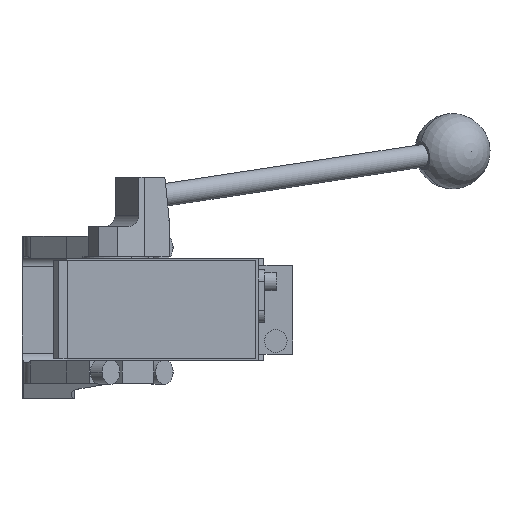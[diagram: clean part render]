
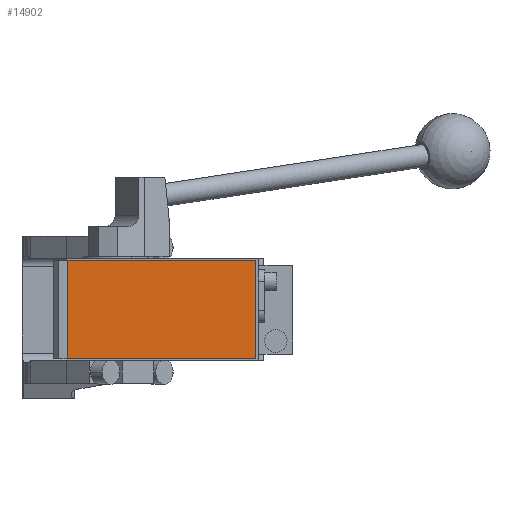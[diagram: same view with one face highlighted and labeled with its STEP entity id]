
A CAD part, front view. The second image highlights one B-rep face of the part: STEP entity #14902.
In plain terms, the highlighted planar face has unit normal (0, -1, 0).
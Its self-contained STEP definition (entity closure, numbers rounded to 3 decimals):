
#49 = VECTOR ( 'NONE', #9610, 1000. ) ;
#157 = DIRECTION ( 'NONE',  ( 0., 0., -1. ) ) ;
#203 = LINE ( 'NONE', #8208, #6854 ) ;
#317 = CARTESIAN_POINT ( 'NONE',  ( -19., -286.5, 26. ) ) ;
#842 = VERTEX_POINT ( 'NONE', #4738 ) ;
#1305 = CARTESIAN_POINT ( 'NONE',  ( 0., -286.5, 0. ) ) ;
#1315 = CARTESIAN_POINT ( 'NONE',  ( 81., -286.5, -26. ) ) ;
#3271 = DIRECTION ( 'NONE',  ( -1., 0., 0. ) ) ;
#4036 = EDGE_CURVE ( 'NONE', #5087, #11094, #12956, .T. ) ;
#4244 = EDGE_CURVE ( 'NONE', #11094, #7538, #203, .T. ) ;
#4619 = LINE ( 'NONE', #9270, #7626 ) ;
#4738 = CARTESIAN_POINT ( 'NONE',  ( 81., -286.5, 26. ) ) ;
#5087 = VERTEX_POINT ( 'NONE', #14152 ) ;
#5439 = EDGE_CURVE ( 'NONE', #7538, #842, #4619, .T. ) ;
#5929 = EDGE_CURVE ( 'NONE', #842, #5087, #14775, .T. ) ;
#6140 = CARTESIAN_POINT ( 'NONE',  ( -19., -286.5, -26. ) ) ;
#6854 = VECTOR ( 'NONE', #7058, 1000. ) ;
#7058 = DIRECTION ( 'NONE',  ( 1., 0., 0. ) ) ;
#7451 = ORIENTED_EDGE ( 'NONE', *, *, #5929, .T. ) ;
#7538 = VERTEX_POINT ( 'NONE', #1315 ) ;
#7626 = VECTOR ( 'NONE', #12762, 1000. ) ;
#8208 = CARTESIAN_POINT ( 'NONE',  ( -19., -286.5, -26. ) ) ;
#8843 = CARTESIAN_POINT ( 'NONE',  ( -19., -286.5, 26. ) ) ;
#8849 = ORIENTED_EDGE ( 'NONE', *, *, #4244, .T. ) ;
#9270 = CARTESIAN_POINT ( 'NONE',  ( 81., -286.5, 26. ) ) ;
#9610 = DIRECTION ( 'NONE',  ( 0., 0., -1. ) ) ;
#10587 = DIRECTION ( 'NONE',  ( 0., -1., 0. ) ) ;
#11094 = VERTEX_POINT ( 'NONE', #6140 ) ;
#11392 = VECTOR ( 'NONE', #3271, 1000. ) ;
#11724 = PLANE ( 'NONE',  #12901 ) ;
#12762 = DIRECTION ( 'NONE',  ( 0., 0., 1. ) ) ;
#12786 = FACE_OUTER_BOUND ( 'NONE', #14491, .T. ) ;
#12901 = AXIS2_PLACEMENT_3D ( 'NONE', #1305, #10587, #157 ) ;
#12956 = LINE ( 'NONE', #317, #49 ) ;
#14027 = ORIENTED_EDGE ( 'NONE', *, *, #4036, .T. ) ;
#14152 = CARTESIAN_POINT ( 'NONE',  ( -19., -286.5, 26. ) ) ;
#14344 = ORIENTED_EDGE ( 'NONE', *, *, #5439, .T. ) ;
#14491 = EDGE_LOOP ( 'NONE', ( #14027, #8849, #14344, #7451 ) ) ;
#14775 = LINE ( 'NONE', #8843, #11392 ) ;
#14902 = ADVANCED_FACE ( 'NONE', ( #12786 ), #11724, .T. ) ;
